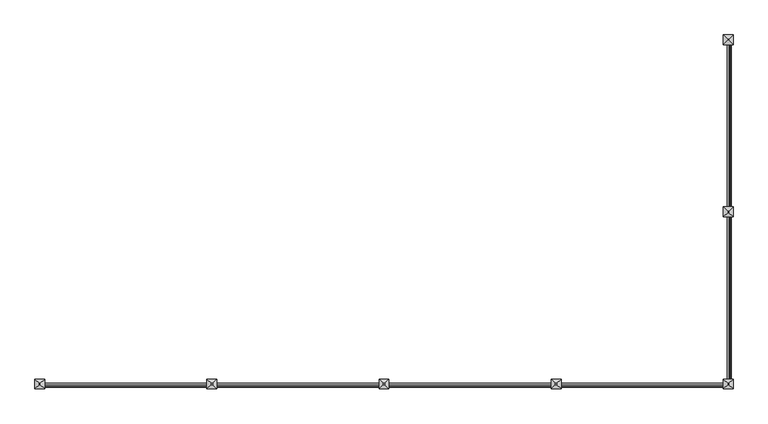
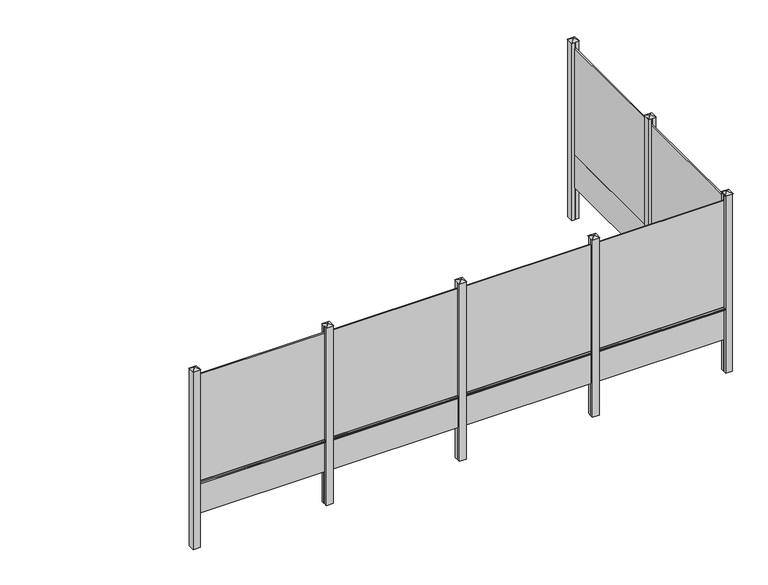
"""IFC4 building model written with IfcOpenShell, lengths in millimetres: railing geometry, Mehat - Railing - Plaque de Soubassement - Pour clôture aluminium - 192x50x3.5/2 cm."""

from ifc_helpers import new_model, si_unit, point, frame, frame_2d, origin, origin_with_axes, place, context, project, spatial, polyline, circle_curve, trimmed, segment, composite_curve, outline, extrude, faceted_brep, source, transform, mapped, element, save


def railing_1c09333d(model_context):
    return source(origin(), model_context, "Body", "SolidModel", [
        extrude(outline(polyline([(-27103.7483484, 18562.5056064), (-27120.7483484, 18562.5056064), (-27120.7483484, 20482.5056064), (-27103.7483484, 20482.5056064), (-27103.7483484, 18562.5056064)])), frame((0.0, 0.0, 500.0), z_axis=(0.0, 0.0, 1.0), x_axis=(1.0, 0.0, 0.0)), (0.0, 0.0, 1.0), 1650.0),
        extrude(outline(polyline([(-27102.2483484, 18562.5056064), (-27122.2483484, 18562.5056064), (-27122.2483484, 20482.5056064), (-27102.2483484, 20482.5056064), (-27102.2483484, 18562.5056064)])), origin_with_axes(), (0.0, 0.0, 1.0), 500.0),
        extrude(outline(composite_curve([segment(polyline([(460.0, -27102.2483484), (467.1937129, -27080.6672095)]), True, "CONTINUOUS"), segment(trimmed(circle_curve(frame_2d((471.9371294, -27082.2483484)), 5.0), [point((467.1937129, -27080.6672095))], [point((471.9371294, -27077.2483484))], False, "CARTESIAN"), True, "CONTINUOUS"), segment(polyline([(471.9371294, -27077.2483484), (488.0628706, -27077.2483484)]), True, "CONTINUOUS"), segment(trimmed(circle_curve(frame_2d((488.0628706, -27082.2483484)), 5.0), [point((488.0628706, -27077.2483484))], [point((492.8062871, -27080.6672095))], False, "CARTESIAN"), True, "CONTINUOUS"), segment(polyline([(492.8062871, -27080.6672095), (500.0, -27102.2483484), (460.0, -27102.2483484)]), True, "CONTINUOUS")], self_intersect=False)), frame((0.0, 18597.5056064, 0.0), z_axis=(0.0, 1.0, 0.0), x_axis=(0.0, 0.0, 1.0)), (0.0, 0.0, 1.0), 1850.0),
        extrude(outline(polyline([(-27062.2483484, 18497.5056064), (-27102.2483484, 18497.5056064), (-27102.2483484, 18532.5056064), (-27122.2483484, 18532.5056064), (-27122.2483484, 18497.5056064), (-27162.2483484, 18497.5056064), (-27162.2483484, 18597.5056064), (-27122.2483484, 18597.5056064), (-27122.2483484, 18562.5056064), (-27102.2483484, 18562.5056064), (-27102.2483484, 18597.5056064), (-27062.2483484, 18597.5056064), (-27062.2483484, 18497.5056064)])), frame((0.0, 0.0, -500.0), z_axis=(0.0, 0.0, 1.0), x_axis=(1.0, 0.0, 0.0)), (0.0, 0.0, 1.0), 2750.0),
        faceted_brep([(-27118.6528945, 18553.8556064, 2275.4), (-27118.6528945, 18541.1556064, 2275.4), (-27105.9528945, 18541.1556064, 2275.4), (-27105.9528945, 18553.8556064, 2275.4), (-27168.5983484, 18603.8556064, 2250.0), (-27055.8983484, 18603.8556064, 2250.0), (-27055.8983484, 18491.1556064, 2250.0), (-27168.5983484, 18491.1556064, 2250.0)], [[[0, 1, 2, 3]], [[4, 5, 6, 7]], [[4, 0, 3, 5]], [[5, 3, 2, 6]], [[6, 2, 1, 7]], [[7, 1, 0, 4]]]),
        extrude(outline(polyline([(-27103.7483484, 16612.5056064), (-27120.7483484, 16612.5056064), (-27120.7483484, 18532.5056064), (-27103.7483484, 18532.5056064), (-27103.7483484, 16612.5056064)])), frame((0.0, 0.0, 500.0), z_axis=(0.0, 0.0, 1.0), x_axis=(1.0, 0.0, 0.0)), (0.0, 0.0, 1.0), 1650.0),
        extrude(outline(polyline([(-27102.2483484, 16612.5056064), (-27122.2483484, 16612.5056064), (-27122.2483484, 18532.5056064), (-27102.2483484, 18532.5056064), (-27102.2483484, 16612.5056064)])), origin_with_axes(), (0.0, 0.0, 1.0), 500.0),
        extrude(outline(composite_curve([segment(polyline([(460.0, -27102.2483484), (467.1937129, -27080.6672095)]), True, "CONTINUOUS"), segment(trimmed(circle_curve(frame_2d((471.9371294, -27082.2483484)), 5.0), [point((467.1937129, -27080.6672095))], [point((471.9371294, -27077.2483484))], False, "CARTESIAN"), True, "CONTINUOUS"), segment(polyline([(471.9371294, -27077.2483484), (488.0628706, -27077.2483484)]), True, "CONTINUOUS"), segment(trimmed(circle_curve(frame_2d((488.0628706, -27082.2483484)), 5.0), [point((488.0628706, -27077.2483484))], [point((492.8062871, -27080.6672095))], False, "CARTESIAN"), True, "CONTINUOUS"), segment(polyline([(492.8062871, -27080.6672095), (500.0, -27102.2483484), (460.0, -27102.2483484)]), True, "CONTINUOUS")], self_intersect=False)), frame((0.0, 16647.5056064, 0.0), z_axis=(0.0, 1.0, 0.0), x_axis=(0.0, 0.0, 1.0)), (0.0, 0.0, 1.0), 1850.0),
        extrude(outline(polyline([(-29047.2483484, 16589.0056064), (-29047.2483484, 16606.0056064), (-27127.2483484, 16606.0056064), (-27127.2483484, 16589.0056064), (-29047.2483484, 16589.0056064)])), frame((0.0, 0.0, 500.0), z_axis=(0.0, 0.0, 1.0), x_axis=(1.0, 0.0, 0.0)), (0.0, 0.0, 1.0), 1650.0),
        extrude(outline(polyline([(-29047.2483484, 16587.5056064), (-29047.2483484, 16607.5056064), (-27127.2483484, 16607.5056064), (-27127.2483484, 16587.5056064), (-29047.2483484, 16587.5056064)])), origin_with_axes(), (0.0, 0.0, 1.0), 500.0),
        extrude(outline(composite_curve([segment(polyline([(16587.5056064, 460.0), (16565.9244675, 467.1937129)]), True, "CONTINUOUS"), segment(trimmed(circle_curve(frame_2d((16567.5056064, 471.9371294)), 5.0), [point((16565.9244675, 467.1937129))], [point((16562.5056064, 471.9371294))], False, "CARTESIAN"), True, "CONTINUOUS"), segment(polyline([(16562.5056064, 471.9371294), (16562.5056064, 488.0628706)]), True, "CONTINUOUS"), segment(trimmed(circle_curve(frame_2d((16567.5056064, 488.0628706)), 5.0), [point((16562.5056064, 488.0628706))], [point((16565.9244675, 492.8062871))], False, "CARTESIAN"), True, "CONTINUOUS"), segment(polyline([(16565.9244675, 492.8062871), (16587.5056064, 500.0), (16587.5056064, 460.0)]), True, "CONTINUOUS")], self_intersect=False)), frame((-29012.2483484, 0.0, 0.0), z_axis=(1.0, 0.0, 0.0), x_axis=(0.0, 1.0, 0.0)), (0.0, 0.0, 1.0), 1850.0),
        extrude(outline(polyline([(-29112.2483484, 16547.5056064), (-29112.2483484, 16587.5056064), (-29077.2483484, 16587.5056064), (-29077.2483484, 16607.5056064), (-29112.2483484, 16607.5056064), (-29112.2483484, 16647.5056064), (-29012.2483484, 16647.5056064), (-29012.2483484, 16607.5056064), (-29047.2483484, 16607.5056064), (-29047.2483484, 16587.5056064), (-29012.2483484, 16587.5056064), (-29012.2483484, 16547.5056064), (-29112.2483484, 16547.5056064)])), frame((0.0, 0.0, -500.0), z_axis=(0.0, 0.0, 1.0), x_axis=(1.0, 0.0, 0.0)), (0.0, 0.0, 1.0), 2750.0),
        faceted_brep([(-29055.8983484, 16603.9101525, 2275.4), (-29068.5983484, 16603.9101525, 2275.4), (-29068.5983484, 16591.2101525, 2275.4), (-29055.8983484, 16591.2101525, 2275.4), (-29005.8983484, 16653.8556064, 2250.0), (-29005.8983484, 16541.1556064, 2250.0), (-29118.5983484, 16541.1556064, 2250.0), (-29118.5983484, 16653.8556064, 2250.0)], [[[0, 1, 2, 3]], [[4, 5, 6, 7]], [[4, 0, 3, 5]], [[5, 3, 2, 6]], [[6, 2, 1, 7]], [[7, 1, 0, 4]]]),
        extrude(outline(polyline([(-30997.2483484, 16589.0056064), (-30997.2483484, 16606.0056064), (-29077.2483484, 16606.0056064), (-29077.2483484, 16589.0056064), (-30997.2483484, 16589.0056064)])), frame((0.0, 0.0, 500.0), z_axis=(0.0, 0.0, 1.0), x_axis=(1.0, 0.0, 0.0)), (0.0, 0.0, 1.0), 1650.0),
        extrude(outline(polyline([(-30997.2483484, 16587.5056064), (-30997.2483484, 16607.5056064), (-29077.2483484, 16607.5056064), (-29077.2483484, 16587.5056064), (-30997.2483484, 16587.5056064)])), origin_with_axes(), (0.0, 0.0, 1.0), 500.0),
        extrude(outline(composite_curve([segment(polyline([(16587.5056064, 460.0), (16565.9244675, 467.1937129)]), True, "CONTINUOUS"), segment(trimmed(circle_curve(frame_2d((16567.5056064, 471.9371294)), 5.0), [point((16565.9244675, 467.1937129))], [point((16562.5056064, 471.9371294))], False, "CARTESIAN"), True, "CONTINUOUS"), segment(polyline([(16562.5056064, 471.9371294), (16562.5056064, 488.0628706)]), True, "CONTINUOUS"), segment(trimmed(circle_curve(frame_2d((16567.5056064, 488.0628706)), 5.0), [point((16562.5056064, 488.0628706))], [point((16565.9244675, 492.8062871))], False, "CARTESIAN"), True, "CONTINUOUS"), segment(polyline([(16565.9244675, 492.8062871), (16587.5056064, 500.0), (16587.5056064, 460.0)]), True, "CONTINUOUS")], self_intersect=False)), frame((-30962.2483484, 0.0, 0.0), z_axis=(1.0, 0.0, 0.0), x_axis=(0.0, 1.0, 0.0)), (0.0, 0.0, 1.0), 1850.0),
        extrude(outline(polyline([(-31062.2483484, 16547.5056064), (-31062.2483484, 16587.5056064), (-31027.2483484, 16587.5056064), (-31027.2483484, 16607.5056064), (-31062.2483484, 16607.5056064), (-31062.2483484, 16647.5056064), (-30962.2483484, 16647.5056064), (-30962.2483484, 16607.5056064), (-30997.2483484, 16607.5056064), (-30997.2483484, 16587.5056064), (-30962.2483484, 16587.5056064), (-30962.2483484, 16547.5056064), (-31062.2483484, 16547.5056064)])), frame((0.0, 0.0, -500.0), z_axis=(0.0, 0.0, 1.0), x_axis=(1.0, 0.0, 0.0)), (0.0, 0.0, 1.0), 2750.0),
        faceted_brep([(-31005.8983484, 16603.9101525, 2275.4), (-31018.5983484, 16603.9101525, 2275.4), (-31018.5983484, 16591.2101525, 2275.4), (-31005.8983484, 16591.2101525, 2275.4), (-30955.8983484, 16653.8556064, 2250.0), (-30955.8983484, 16541.1556064, 2250.0), (-31068.5983484, 16541.1556064, 2250.0), (-31068.5983484, 16653.8556064, 2250.0)], [[[0, 1, 2, 3]], [[4, 5, 6, 7]], [[4, 0, 3, 5]], [[5, 3, 2, 6]], [[6, 2, 1, 7]], [[7, 1, 0, 4]]]),
        extrude(outline(polyline([(-32947.2483484, 16589.0056064), (-32947.2483484, 16606.0056064), (-31027.2483484, 16606.0056064), (-31027.2483484, 16589.0056064), (-32947.2483484, 16589.0056064)])), frame((0.0, 0.0, 500.0), z_axis=(0.0, 0.0, 1.0), x_axis=(1.0, 0.0, 0.0)), (0.0, 0.0, 1.0), 1650.0),
        extrude(outline(polyline([(-32947.2483484, 16587.5056064), (-32947.2483484, 16607.5056064), (-31027.2483484, 16607.5056064), (-31027.2483484, 16587.5056064), (-32947.2483484, 16587.5056064)])), origin_with_axes(), (0.0, 0.0, 1.0), 500.0),
        extrude(outline(composite_curve([segment(polyline([(16587.5056064, 460.0), (16565.9244675, 467.1937129)]), True, "CONTINUOUS"), segment(trimmed(circle_curve(frame_2d((16567.5056064, 471.9371294)), 5.0), [point((16565.9244675, 467.1937129))], [point((16562.5056064, 471.9371294))], False, "CARTESIAN"), True, "CONTINUOUS"), segment(polyline([(16562.5056064, 471.9371294), (16562.5056064, 488.0628706)]), True, "CONTINUOUS"), segment(trimmed(circle_curve(frame_2d((16567.5056064, 488.0628706)), 5.0), [point((16562.5056064, 488.0628706))], [point((16565.9244675, 492.8062871))], False, "CARTESIAN"), True, "CONTINUOUS"), segment(polyline([(16565.9244675, 492.8062871), (16587.5056064, 500.0), (16587.5056064, 460.0)]), True, "CONTINUOUS")], self_intersect=False)), frame((-32912.2483484, 0.0, 0.0), z_axis=(1.0, 0.0, 0.0), x_axis=(0.0, 1.0, 0.0)), (0.0, 0.0, 1.0), 1850.0),
        extrude(outline(polyline([(-33012.2483484, 16547.5056064), (-33012.2483484, 16587.5056064), (-32977.2483484, 16587.5056064), (-32977.2483484, 16607.5056064), (-33012.2483484, 16607.5056064), (-33012.2483484, 16647.5056064), (-32912.2483484, 16647.5056064), (-32912.2483484, 16607.5056064), (-32947.2483484, 16607.5056064), (-32947.2483484, 16587.5056064), (-32912.2483484, 16587.5056064), (-32912.2483484, 16547.5056064), (-33012.2483484, 16547.5056064)])), frame((0.0, 0.0, -500.0), z_axis=(0.0, 0.0, 1.0), x_axis=(1.0, 0.0, 0.0)), (0.0, 0.0, 1.0), 2750.0),
        faceted_brep([(-32955.8983484, 16603.9101525, 2275.4), (-32968.5983484, 16603.9101525, 2275.4), (-32968.5983484, 16591.2101525, 2275.4), (-32955.8983484, 16591.2101525, 2275.4), (-32905.8983484, 16653.8556064, 2250.0), (-32905.8983484, 16541.1556064, 2250.0), (-33018.5983484, 16541.1556064, 2250.0), (-33018.5983484, 16653.8556064, 2250.0)], [[[0, 1, 2, 3]], [[4, 5, 6, 7]], [[4, 0, 3, 5]], [[5, 3, 2, 6]], [[6, 2, 1, 7]], [[7, 1, 0, 4]]]),
        extrude(outline(polyline([(-34897.2483484, 16589.0056064), (-34897.2483484, 16606.0056064), (-32977.2483484, 16606.0056064), (-32977.2483484, 16589.0056064), (-34897.2483484, 16589.0056064)])), frame((0.0, 0.0, 500.0), z_axis=(0.0, 0.0, 1.0), x_axis=(1.0, 0.0, 0.0)), (0.0, 0.0, 1.0), 1650.0),
        extrude(outline(polyline([(-34897.2483484, 16587.5056064), (-34897.2483484, 16607.5056064), (-32977.2483484, 16607.5056064), (-32977.2483484, 16587.5056064), (-34897.2483484, 16587.5056064)])), origin_with_axes(), (0.0, 0.0, 1.0), 500.0),
        extrude(outline(composite_curve([segment(polyline([(16587.5056064, 460.0), (16565.9244675, 467.1937129)]), True, "CONTINUOUS"), segment(trimmed(circle_curve(frame_2d((16567.5056064, 471.9371294)), 5.0), [point((16565.9244675, 467.1937129))], [point((16562.5056064, 471.9371294))], False, "CARTESIAN"), True, "CONTINUOUS"), segment(polyline([(16562.5056064, 471.9371294), (16562.5056064, 488.0628706)]), True, "CONTINUOUS"), segment(trimmed(circle_curve(frame_2d((16567.5056064, 488.0628706)), 5.0), [point((16562.5056064, 488.0628706))], [point((16565.9244675, 492.8062871))], False, "CARTESIAN"), True, "CONTINUOUS"), segment(polyline([(16565.9244675, 492.8062871), (16587.5056064, 500.0), (16587.5056064, 460.0)]), True, "CONTINUOUS")], self_intersect=False)), frame((-34862.2483484, 0.0, 0.0), z_axis=(1.0, 0.0, 0.0), x_axis=(0.0, 1.0, 0.0)), (0.0, 0.0, 1.0), 1850.0),
        extrude(outline(polyline([(-27162.2483484, 16547.5056064), (-27162.2483484, 16587.5056064), (-27127.2483484, 16587.5056064), (-27127.2483484, 16607.5056064), (-27162.2483484, 16607.5056064), (-27162.2483484, 16647.5056064), (-27122.2483484, 16647.5056064), (-27122.2483484, 16612.5056064), (-27102.2483484, 16612.5056064), (-27102.2483484, 16647.5056064), (-27062.2483484, 16647.5056064), (-27062.2483484, 16547.5056064), (-27162.2483484, 16547.5056064)])), frame((0.0, 0.0, -500.0), z_axis=(0.0, 0.0, 1.0), x_axis=(1.0, 0.0, 0.0)), (0.0, 0.0, 1.0), 2750.0),
        faceted_brep([(-27105.8983484, 16603.9101525, 2275.4), (-27118.5983484, 16603.9101525, 2275.4), (-27118.5983484, 16591.2101525, 2275.4), (-27105.8983484, 16591.2101525, 2275.4), (-27055.8983484, 16653.8556064, 2250.0), (-27055.8983484, 16541.1556064, 2250.0), (-27168.5983484, 16541.1556064, 2250.0), (-27168.5983484, 16653.8556064, 2250.0)], [[[0, 1, 2, 3]], [[4, 5, 6, 7]], [[4, 0, 3, 5]], [[5, 3, 2, 6]], [[6, 2, 1, 7]], [[7, 1, 0, 4]]]),
        extrude(outline(polyline([(-27062.2483484, 20447.5056064), (-27102.2483484, 20447.5056064), (-27102.2483484, 20482.5056064), (-27122.2483484, 20482.5056064), (-27122.2483484, 20447.5056064), (-27162.2483484, 20447.5056064), (-27162.2483484, 20547.5056064), (-27062.2483484, 20547.5056064), (-27062.2483484, 20447.5056064)])), frame((0.0, 0.0, -500.0), z_axis=(0.0, 0.0, 1.0), x_axis=(1.0, 0.0, 0.0)), (0.0, 0.0, 1.0), 2750.0),
        faceted_brep([(-27118.6528945, 20503.8556064, 2275.4), (-27118.6528945, 20491.1556064, 2275.4), (-27105.9528945, 20491.1556064, 2275.4), (-27105.9528945, 20503.8556064, 2275.4), (-27168.5983484, 20553.8556064, 2250.0), (-27055.8983484, 20553.8556064, 2250.0), (-27055.8983484, 20441.1556064, 2250.0), (-27168.5983484, 20441.1556064, 2250.0)], [[[0, 1, 2, 3]], [[4, 5, 6, 7]], [[4, 0, 3, 5]], [[5, 3, 2, 6]], [[6, 2, 1, 7]], [[7, 1, 0, 4]]]),
        extrude(outline(polyline([(-34962.2483484, 16547.5056064), (-34962.2483484, 16647.5056064), (-34862.2483484, 16647.5056064), (-34862.2483484, 16607.5056064), (-34897.2483484, 16607.5056064), (-34897.2483484, 16587.5056064), (-34862.2483484, 16587.5056064), (-34862.2483484, 16547.5056064), (-34962.2483484, 16547.5056064)])), frame((0.0, 0.0, -500.0), z_axis=(0.0, 0.0, 1.0), x_axis=(1.0, 0.0, 0.0)), (0.0, 0.0, 1.0), 2750.0),
        faceted_brep([(-34905.8983484, 16603.9101525, 2275.4), (-34918.5983484, 16603.9101525, 2275.4), (-34918.5983484, 16591.2101525, 2275.4), (-34905.8983484, 16591.2101525, 2275.4), (-34855.8983484, 16653.8556064, 2250.0), (-34855.8983484, 16541.1556064, 2250.0), (-34968.5983484, 16541.1556064, 2250.0), (-34968.5983484, 16653.8556064, 2250.0)], [[[0, 1, 2, 3]], [[4, 5, 6, 7]], [[4, 0, 3, 5]], [[5, 3, 2, 6]], [[6, 2, 1, 7]], [[7, 1, 0, 4]]]),
    ])


if __name__ == "__main__":
    model = new_model("IFC4")
    model_context = context("Model", 3, world=origin())
    ifc_project = project(units=[si_unit("LENGTHUNIT", "METRE", prefix="MILLI")], contexts=[model_context])
    site = spatial("IfcSite", under=ifc_project)
    building = spatial("IfcBuilding", under=site)
    placement = place(None, origin())
    railing_shape = railing_1c09333d(model_context)
    element("IfcRailing", 1, ObjectType="Mehat - Railing - Plaque de Soubassement - Pour clôture aluminium - 192x50x3.5/2 cm", at=placement, inside=building, context=model_context, shape_type="MappedRepresentation", body=[
        mapped(railing_shape, transform((0.0, 0.0, 0.0), x_axis=(1.0, 0.0, 0.0), y_axis=(0.0, 1.0, 0.0), z_axis=(0.0, 0.0, 1.0))),
    ])
    save(model, "model.ifc")
